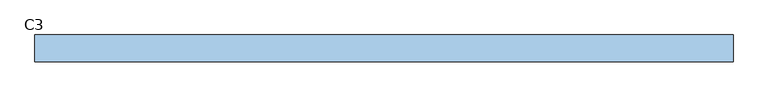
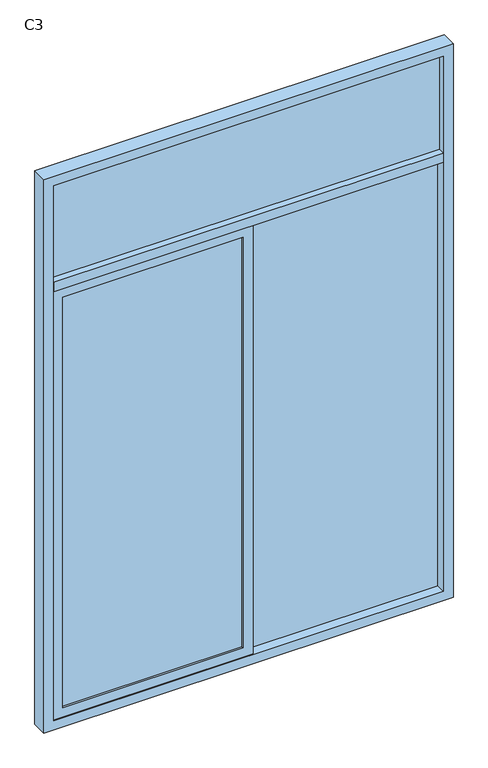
"""IFC4 building model written with IfcOpenShell, lengths in millimetres: window geometry, 组合窗 - 双层单列(固定+推拉) : C3."""

import ifcopenshell
import ifcopenshell.guid

model = None  # the IFC model being written
_history = None  # IfcOwnerHistory: only IFC2X3 demands one
_inside = {}  # id of a spatial element -> (the spatial element, [elements in it])
_under = {}  # id of a project, library or spatial element -> (it, [spatial elements below it])
_declared = {}  # id of a project -> (the project, [libraries it declares])
_typed = {}  # id of a type object -> (the type object, [elements of that type])
_made_of = {}  # id of a material, layer set ... -> (it, [elements and type objects made of it])


def new_model(schema):
    """Start an empty IFC model of exactly this schema.

    Asked for "IFC4X3", IfcOpenShell would pick the latest addendum, in which some entities
    have other attributes; the version numbers below select the first issue.
    IFC2X3 requires an IfcOwnerHistory on every rooted entity: one is made here for all.
    """
    global model, _history
    if schema == "IFC4X3":
        model = ifcopenshell.file(schema_version=(4, 3, 0, 0))
    else:
        model = ifcopenshell.file(schema=schema)
    _inside.clear()
    _under.clear()
    _declared.clear()
    _typed.clear()
    _made_of.clear()
    _history = None
    if model.schema == "IFC2X3":
        org = make("IfcOrganization", Name="unknown")
        user = make(
            "IfcPersonAndOrganization",
            ThePerson=make("IfcPerson", FamilyName="unknown"),
            TheOrganization=org,
        )
        app = make(
            "IfcApplication",
            ApplicationDeveloper=org,
            Version="unknown",
            ApplicationFullName="unknown",
            ApplicationIdentifier="unknown",
        )
        _history = make(
            "IfcOwnerHistory",
            OwningUser=user,
            OwningApplication=app,
            ChangeAction="ADDED",
            CreationDate=0,
        )
    return model


def make(cls, **values):
    """One entity of the class cls with the attributes given. An attribute that is None is left unset."""
    return model.create_entity(
        cls, **{name: value for name, value in values.items() if value is not None}
    )


def rooted(cls, **values):
    """An entity with a GlobalId (a new one), such as an element, a storey or a relation."""
    return make(cls, GlobalId=ifcopenshell.guid.new(), OwnerHistory=_history, **values)


def si_unit(unit_type, name, prefix=None):
    """IfcSIUnit, for example si_unit("LENGTHUNIT", "METRE", prefix="MILLI")."""
    return make("IfcSIUnit", UnitType=unit_type, Prefix=prefix, Name=name)


def assignment(units):
    """IfcUnitAssignment: the units of a project."""
    return None if units is None else make("IfcUnitAssignment", Units=units)


def point(xyz):
    """IfcCartesianPoint."""
    return None if xyz is None else make("IfcCartesianPoint", Coordinates=xyz)


def direction(xyz):
    """IfcDirection."""
    return None if xyz is None else make("IfcDirection", DirectionRatios=xyz)


def frame(location, z_axis=None, x_axis=None):
    """IfcAxis2Placement3D, a coordinate frame: its origin and axes. An axis left out is left unset."""
    return make(
        "IfcAxis2Placement3D",
        Location=point(location),
        Axis=direction(z_axis),
        RefDirection=direction(x_axis),
    )


def origin():
    """The frame at (0, 0, 0) with its axes left unset."""
    return frame((0.0, 0.0, 0.0))


def place(relative_to, where):
    """IfcLocalPlacement: puts the frame where relative to a parent placement (None: the world)."""
    return make(
        "IfcLocalPlacement", PlacementRelTo=relative_to, RelativePlacement=where
    )


def context(
    kind, dimensions, precision=None, world=None, true_north=None, identifier=None
):
    """IfcGeometricRepresentationContext, for example the 3D "Model" context."""
    return make(
        "IfcGeometricRepresentationContext",
        ContextIdentifier=identifier,
        ContextType=kind,
        CoordinateSpaceDimension=dimensions,
        Precision=precision,
        WorldCoordinateSystem=world,
        TrueNorth=true_north,
    )


def project(units=None, contexts=None):
    """IfcProject with its units and contexts."""
    return rooted(
        "IfcProject",
        Name="project",
        RepresentationContexts=contexts,
        UnitsInContext=assignment(units),
    )


def spatial(cls, under=None, at=None, **own):
    """A site, building, storey or space (cls), placed at a placement, below another one or the project."""
    s = rooted(cls, ObjectPlacement=at, **own)
    if under is not None:
        _under.setdefault(under.id(), (under, []))[1].append(s)
    return s


def polyline(points):
    """IfcPolyline through the points."""
    return make("IfcPolyline", Points=[point(p) for p in points])


def outline(outer, holes=None, kind="AREA"):
    """IfcArbitraryClosedProfileDef: a profile drawn as a closed curve; with holes, ...WithVoids."""
    if holes is None:
        return make("IfcArbitraryClosedProfileDef", ProfileType=kind, OuterCurve=outer)
    return make(
        "IfcArbitraryProfileDefWithVoids",
        ProfileType=kind,
        OuterCurve=outer,
        InnerCurves=holes,
    )


def extrude(swept, where, along, depth):
    """IfcExtrudedAreaSolid: the profile swept, set in the frame where, extruded along a direction by depth."""
    return make(
        "IfcExtrudedAreaSolid",
        SweptArea=swept,
        Position=where,
        ExtrudedDirection=direction(along),
        Depth=depth,
    )


def shape(context_of_items, identifier, shape_type, items):
    """IfcShapeRepresentation: the items that make up one representation, for example the "Body"."""
    return make(
        "IfcShapeRepresentation",
        ContextOfItems=context_of_items,
        RepresentationIdentifier=identifier,
        RepresentationType=shape_type,
        Items=items,
    )


def source(mapping_origin, context_of_items, identifier, shape_type, items):
    """IfcRepresentationMap: a shape defined once, which mapped items show again and again."""
    return make(
        "IfcRepresentationMap",
        MappingOrigin=mapping_origin,
        MappedRepresentation=shape(context_of_items, identifier, shape_type, items),
    )


def transform(
    local_origin,
    x_axis=None,
    y_axis=None,
    z_axis=None,
    scale=None,
    scale2=None,
    scale3=None,
    uniform=True,
):
    """IfcCartesianTransformationOperator3D, or its non-uniform kind. x_axis, y_axis, z_axis: its Axis1, 2, 3."""
    if uniform:
        return make(
            "IfcCartesianTransformationOperator3D",
            Axis1=direction(x_axis),
            Axis2=direction(y_axis),
            LocalOrigin=point(local_origin),
            Scale=scale,
            Axis3=direction(z_axis),
        )
    return make(
        "IfcCartesianTransformationOperator3DnonUniform",
        Axis1=direction(x_axis),
        Axis2=direction(y_axis),
        LocalOrigin=point(local_origin),
        Scale=scale,
        Axis3=direction(z_axis),
        Scale2=scale2,
        Scale3=scale3,
    )


def mapped(mapping_source, mapping_target):
    """IfcMappedItem: shows the shape of a source again, moved by a transform."""
    return make(
        "IfcMappedItem", MappingSource=mapping_source, MappingTarget=mapping_target
    )


def made_of(thing, what):
    """Note that an element or type object is made of a material, layer set ...; save() writes the relation."""
    if what is not None:
        _made_of.setdefault(what.id(), (what, []))[1].append(thing)
    return thing


def element(
    cls,
    number,
    at=None,
    inside=None,
    cuts=None,
    type_object=None,
    material=None,
    context=None,
    identifier="Body",
    shape_type=None,
    held_by="IfcProductDefinitionShape",
    body=None,
    shapes=None,
    **own,
):
    """One element of the class cls, such as IfcWall. Its Tag is "e" and its number.

    at: its placement. inside: the storey or other place that contains it. cuts: it is an
    opening in that element (IfcRelVoidsElement). A single representation is given by context,
    identifier, shape_type and body (its items); several are given by shapes. held_by: the class
    of the entity that holds the representations. save() writes the other relations.
    """
    e = rooted(cls, Tag="e%d" % number, ObjectPlacement=at, **own)
    if body is not None:
        shapes = [shape(context, identifier, shape_type, body)]
    if shapes is not None:
        e.Representation = make(held_by, Representations=shapes)
    if inside is not None:
        _inside.setdefault(inside.id(), (inside, []))[1].append(e)
    if cuts is not None:
        rooted(
            "IfcRelVoidsElement", RelatingBuildingElement=cuts, RelatedOpeningElement=e
        )
    if type_object is not None:
        _typed.setdefault(type_object.id(), (type_object, []))[1].append(e)
    return made_of(e, material)


def aggregate(whole, parts):
    """IfcRelAggregates: a whole, such as a stair, and the parts it consists of."""
    return rooted("IfcRelAggregates", RelatingObject=whole, RelatedObjects=parts)


def save(model, path):
    """Write the relations noted so far, then the file.

    IfcRelAggregates (storeys below a building ...), IfcRelContainedInSpatialStructure (elements
    in a storey), IfcRelDefinesByType, IfcRelAssociatesMaterial and IfcRelDeclares: one each for
    every whole, place, type object, material and project.
    """
    for whole, parts in _under.values():
        aggregate(whole, parts)
    for where, things in _inside.values():
        rooted(
            "IfcRelContainedInSpatialStructure",
            RelatedElements=things,
            RelatingStructure=where,
        )
    for kind, things in _typed.values():
        rooted("IfcRelDefinesByType", RelatedObjects=things, RelatingType=kind)
    for what, things in _made_of.values():
        rooted("IfcRelAssociatesMaterial", RelatedObjects=things, RelatingMaterial=what)
    for by, libraries in _declared.values():
        rooted("IfcRelDeclares", RelatingContext=by, RelatedDefinitions=libraries)
    model.write(path)


def c3_d9d63924(model_context):
    return source(origin(), model_context, "Body", "SweptSolid", [
        extrude(outline(polyline([(1000.0, -50.0), (-1000.0, -50.0), (-1000.0, -40.0), (1000.0, -40.0), (1000.0, -50.0)])), frame((0.0, 0.0, 3325.0), z_axis=(0.0, 0.0, 1.0), x_axis=(1.0, 0.0, 0.0)), (0.0, 0.0, 1.0), 525.0),
        extrude(outline(polyline([(25.0, -25.0), (1000.0, -25.0), (1000.0, -35.0), (25.0, -35.0), (25.0, -25.0)])), frame((0.0, 0.0, 950.0), z_axis=(0.0, 0.0, 1.0), x_axis=(1.0, 0.0, 0.0)), (0.0, 0.0, 1.0), 2325.0),
        extrude(outline(polyline([(25.0, -15.0), (25.0, -45.0), (-25.0, -45.0), (-25.0, -15.0), (25.0, -15.0)])), frame((0.0, 0.0, 950.0), z_axis=(0.0, 0.0, 1.0), x_axis=(1.0, 0.0, 0.0)), (0.0, 0.0, 1.0), 2325.0),
        extrude(outline(polyline([(3275.0, 25.0), (3275.0, -1000.0), (950.0, -1000.0), (950.0, 25.0), (3275.0, 25.0)]), holes=[polyline([(1000.0, -25.0), (1000.0, -950.0), (3225.0, -950.0), (3225.0, -25.0), (1000.0, -25.0)])]), frame((0.0, -80.0, 0.0), z_axis=(0.0, 1.0, 0.0), x_axis=(0.0, 0.0, 1.0)), (0.0, 0.0, 1.0), 30.0),
        extrude(outline(polyline([(-950.0, -60.0), (-25.0, -60.0), (-25.0, -70.0), (-950.0, -70.0), (-950.0, -60.0)])), frame((0.0, 0.0, 1000.0), z_axis=(0.0, 0.0, 1.0), x_axis=(1.0, 0.0, 0.0)), (0.0, 0.0, 1.0), 2225.0),
        extrude(outline(polyline([(-1000.0, -5.0), (1000.0, -5.0), (1000.0, -85.0), (-1000.0, -85.0), (-1000.0, -5.0)])), frame((0.0, 0.0, 3275.0), z_axis=(0.0, 0.0, 1.0), x_axis=(1.0, 0.0, 0.0)), (0.0, 0.0, 1.0), 50.0),
        extrude(outline(polyline([(3900.0, -1050.0), (900.0, -1050.0), (900.0, 1050.0), (3900.0, 1050.0), (3900.0, -1050.0)]), holes=[polyline([(3850.0, 1000.0), (950.0, 1000.0), (950.0, -1000.0), (3850.0, -1000.0), (3850.0, 1000.0)])]), frame((0.0, -85.0, 0.0), z_axis=(0.0, 1.0, 0.0), x_axis=(0.0, 0.0, 1.0)), (0.0, 0.0, 1.0), 80.0),
    ])


if __name__ == "__main__":
    model = new_model("IFC4")
    model_context = context("Model", 3, world=origin())
    ifc_project = project(units=[si_unit("LENGTHUNIT", "METRE", prefix="MILLI")], contexts=[model_context])
    site = spatial("IfcSite", under=ifc_project)
    building = spatial("IfcBuilding", under=site)
    placement = place(None, origin())
    c3_shape = c3_d9d63924(model_context)
    element("IfcWindow", 1, ObjectType="组合窗 - 双层单列(固定+推拉) : C3", at=placement, inside=building, context=model_context, shape_type="MappedRepresentation", body=[
        mapped(c3_shape, transform((0.0, 0.0, 0.0), x_axis=(1.0, 0.0, 0.0), y_axis=(0.0, 1.0, 0.0), z_axis=(0.0, 0.0, 1.0))),
    ])
    save(model, "model.ifc")
